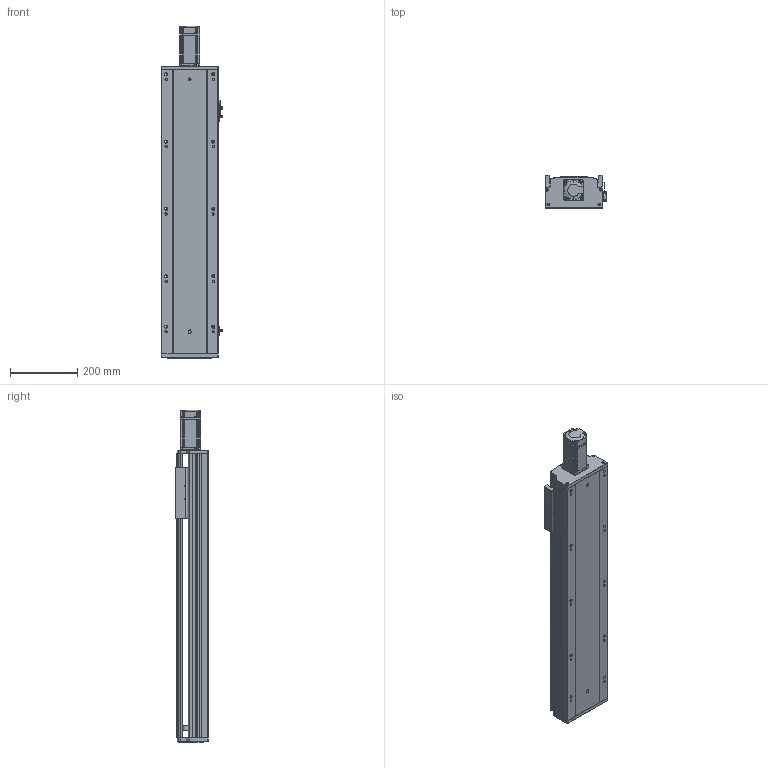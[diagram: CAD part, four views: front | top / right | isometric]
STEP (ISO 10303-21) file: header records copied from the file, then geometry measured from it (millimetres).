
FILE_DESCRIPTION (( 'STEP AP203' ), '1' );
FILE_NAME ('RY170Q-L2020-400-MK.SLDASM_0600.step', '2021-05-31T02:02:34', ( '盈信电脑' ), ( '东莞市道滘镇水果街19号' ), 'SwSTEP 2.0', 'SolidWorks 2016', '' );
FILE_SCHEMA (( 'CONFIG_CONTROL_DESIGN' ));
Length unit declared in the file: millimetre
Products named in the file (12): RY170ヶ醱裔啣; RY170Q臏賑輸20佪裝蹟譫(FK15); 滅袉蝶18-15; RY170外置感应片(200共用）; 覜茼ん672; 侂狟400W侜督萇儂; RY170Q-L2020-400-MK.SLDASM_0600; 15; RY170綴裔啣; RY170Q-400倰第菁釱-MK_0600; 滅袉蝶18-10; RY170Q-400倰第裔啣-MK_0600
Assembly tree (14 placements, depth 3):
  RY170Q-L2020-400-MK.SLDASM_0600
    RY170Q-400倰第菁釱-MK_0600
    RY170Q-400倰第裔啣-MK_0600
    RY170Q臏賑輸20佪裝蹟譫(FK15)
    侂狟400W侜督萇儂
      15
    RY170綴裔啣
    覜茼ん672  x3
    RY170外置感应片(200共用）
    RY170ヶ醱裔啣
    滅袉蝶18-15  x2
    滅袉蝶18-10
Bounding box: 183.7 x 97 x 986.5 mm (x, y, z)
Volume: 4544414 mm3; surface area: 1452993.5 mm2
Topology: 13 solids, 13 shells, 2138 faces, 6059 edges, 3917 vertices
Faces by surface type: plane 1185, cylinder 759, cone 165, bspline 29
Entity records: 66722 total; most frequent: CARTESIAN_POINT 14467, ORIENTED_EDGE 10890, DIRECTION 10364, EDGE_CURVE 5445, VERTEX_POINT 3585, LINE 3564, VECTOR 3564, AXIS2_PLACEMENT_3D 3400
